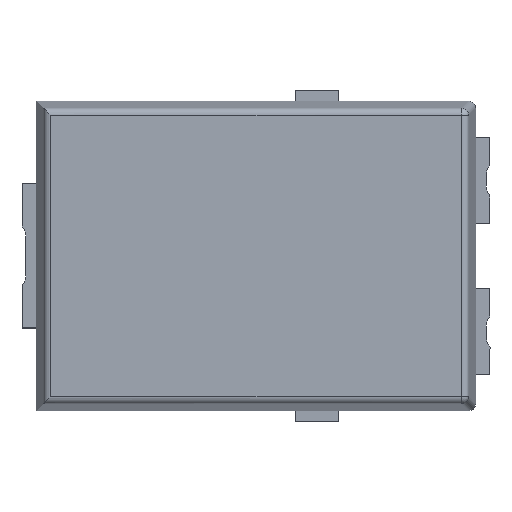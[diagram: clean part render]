
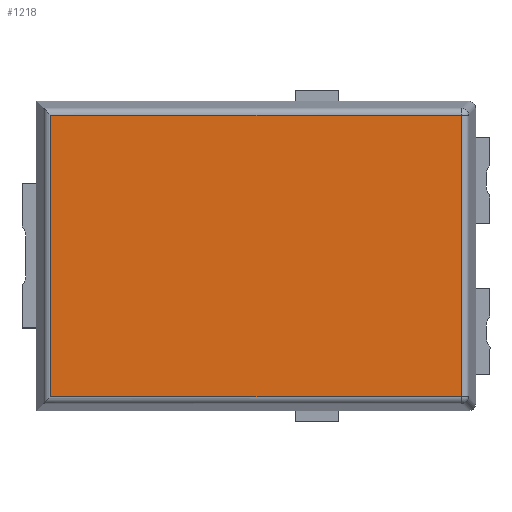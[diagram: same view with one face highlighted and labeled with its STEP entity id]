
A CAD part, top view. The second image highlights one B-rep face of the part: STEP entity #1218.
In plain terms, the highlighted planar face has unit normal (0, 0, 1).
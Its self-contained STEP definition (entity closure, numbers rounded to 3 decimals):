
#110=ORIENTED_EDGE('',*,*,#468,.T.);
#111=ORIENTED_EDGE('',*,*,#469,.T.);
#112=ORIENTED_EDGE('',*,*,#470,.T.);
#113=ORIENTED_EDGE('',*,*,#471,.T.);
#468=EDGE_CURVE('',#646,#647,#762,.F.);
#469=EDGE_CURVE('',#647,#648,#763,.F.);
#470=EDGE_CURVE('',#648,#649,#764,.F.);
#471=EDGE_CURVE('',#649,#646,#765,.F.);
#646=VERTEX_POINT('',#1858);
#647=VERTEX_POINT('',#1859);
#648=VERTEX_POINT('',#1861);
#649=VERTEX_POINT('',#1863);
#762=LINE('',#1857,#900);
#763=LINE('',#1860,#901);
#764=LINE('',#1862,#902);
#765=LINE('',#1864,#903);
#900=VECTOR('',#1475,1000.);
#901=VECTOR('',#1476,1000.);
#902=VECTOR('',#1477,1000.);
#903=VECTOR('',#1478,1000.);
#1024=EDGE_LOOP('',(#110,#111,#112,#113));
#1098=FACE_BOUND('',#1024,.T.);
#1172=PLANE('',#1333);
#1218=ADVANCED_FACE('',(#1098),#1172,.F.);
#1333=AXIS2_PLACEMENT_3D('',#1856,#1473,#1474);
#1473=DIRECTION('',(0.,0.,-1.));
#1474=DIRECTION('',(-1.,0.,0.));
#1475=DIRECTION('',(1.,0.,0.));
#1476=DIRECTION('',(0.,1.,0.));
#1477=DIRECTION('',(-1.,0.,0.));
#1478=DIRECTION('',(0.,-1.,0.));
#1856=CARTESIAN_POINT('',(0.,0.,0.78));
#1857=CARTESIAN_POINT('',(-2.94,1.953,0.78));
#1858=CARTESIAN_POINT('',(2.853,1.953,0.78));
#1859=CARTESIAN_POINT('',(-2.853,1.953,0.78));
#1860=CARTESIAN_POINT('',(-2.853,-2.04,0.78));
#1861=CARTESIAN_POINT('',(-2.853,-1.953,0.78));
#1862=CARTESIAN_POINT('',(2.94,-1.953,0.78));
#1863=CARTESIAN_POINT('',(2.853,-1.953,0.78));
#1864=CARTESIAN_POINT('',(2.853,2.04,0.78));
